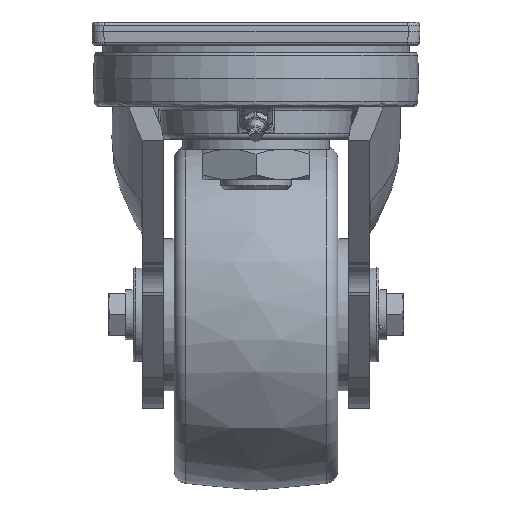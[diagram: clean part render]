
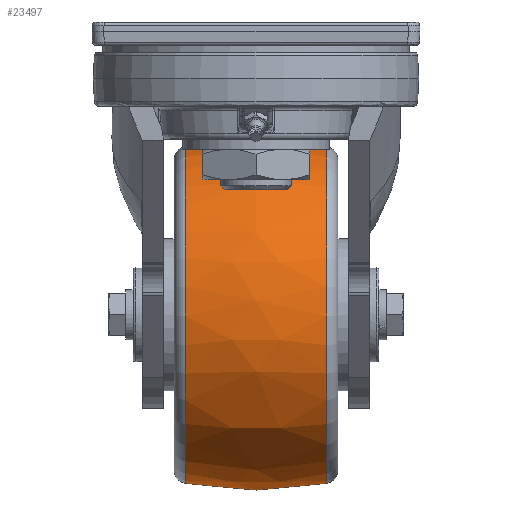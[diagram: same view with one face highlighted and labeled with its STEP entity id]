
A CAD part, left-side view. The second image highlights one B-rep face of the part: STEP entity #23497.
In plain terms, the highlighted free-form (B-spline) face has degree [2, 2] with [3, 9] control points.
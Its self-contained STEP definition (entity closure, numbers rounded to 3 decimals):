
#16=(
BOUNDED_SURFACE()
B_SPLINE_SURFACE(2,2,((#36085,#36086,#36087,#36088,#36089,#36090,#36091,
#36092,#36093),(#36094,#36095,#36096,#36097,#36098,#36099,#36100,#36101,
#36102),(#36103,#36104,#36105,#36106,#36107,#36108,#36109,#36110,#36111)),
 .UNSPECIFIED.,.F.,.T.,.F.)
B_SPLINE_SURFACE_WITH_KNOTS((3,3),(3,2,2,2,3),(-0.203,0.203),
(-3.142,-1.571,0.,1.571,3.142),
 .UNSPECIFIED.)
GEOMETRIC_REPRESENTATION_ITEM()
RATIONAL_B_SPLINE_SURFACE(((1.,0.707,1.,0.707,1.,
0.707,1.,0.707,1.),(0.98,0.693,
0.98,0.693,0.98,0.693,
0.98,0.693,0.98),(1.,0.707,
1.,0.707,1.,0.707,1.,0.707,1.)))
REPRESENTATION_ITEM('')
SURFACE()
);
#6738=FACE_OUTER_BOUND('',#8101,.T.);
#8101=EDGE_LOOP('',(#18519,#18520,#18521,#18522,#18523,#18524));
#9087=CIRCLE('',#24853,71.927);
#9088=CIRCLE('',#24854,71.927);
#9090=CIRCLE('',#24856,150.);
#9091=CIRCLE('',#24857,71.927);
#9092=CIRCLE('',#24858,71.927);
#10358=VERTEX_POINT('',#36079);
#10359=VERTEX_POINT('',#36081);
#10360=VERTEX_POINT('',#36112);
#10361=VERTEX_POINT('',#36114);
#13284=EDGE_CURVE('',#10358,#10359,#9087,.T.);
#13285=EDGE_CURVE('',#10359,#10358,#9088,.T.);
#13287=EDGE_CURVE('',#10358,#10360,#9090,.T.);
#13288=EDGE_CURVE('',#10361,#10360,#9091,.T.);
#13289=EDGE_CURVE('',#10360,#10361,#9092,.T.);
#18519=ORIENTED_EDGE('',*,*,#13285,.F.);
#18520=ORIENTED_EDGE('',*,*,#13284,.F.);
#18521=ORIENTED_EDGE('',*,*,#13287,.T.);
#18522=ORIENTED_EDGE('',*,*,#13288,.F.);
#18523=ORIENTED_EDGE('',*,*,#13289,.F.);
#18524=ORIENTED_EDGE('',*,*,#13287,.F.);
#23497=ADVANCED_FACE('',(#6738),#16,.F.);
#24853=AXIS2_PLACEMENT_3D('',#36082,#27696,#27697);
#24854=AXIS2_PLACEMENT_3D('',#36083,#27698,#27699);
#24856=AXIS2_PLACEMENT_3D('',#36113,#27702,#27703);
#24857=AXIS2_PLACEMENT_3D('',#36115,#27704,#27705);
#24858=AXIS2_PLACEMENT_3D('',#36116,#27706,#27707);
#27696=DIRECTION('center_axis',(0.,-1.,0.));
#27697=DIRECTION('ref_axis',(-0.762,0.,-0.648));
#27698=DIRECTION('center_axis',(0.,-1.,0.));
#27699=DIRECTION('ref_axis',(-0.762,0.,-0.648));
#27702=DIRECTION('center_axis',(0.648,0.,-0.762));
#27703=DIRECTION('ref_axis',(-0.762,0.,-0.648));
#27704=DIRECTION('center_axis',(0.,1.,0.));
#27705=DIRECTION('ref_axis',(-0.762,0.,-0.648));
#27706=DIRECTION('center_axis',(0.,1.,0.));
#27707=DIRECTION('ref_axis',(-0.762,0.,-0.648));
#36079=CARTESIAN_POINT('',(25.221,-30.208,-158.613));
#36081=CARTESIAN_POINT('',(134.779,-30.208,-65.388));
#36082=CARTESIAN_POINT('Origin',(80.,-30.208,-112.));
#36083=CARTESIAN_POINT('Origin',(80.,-30.208,-112.));
#36085=CARTESIAN_POINT('Ctrl Pts',(25.221,30.208,-158.613));
#36086=CARTESIAN_POINT('Ctrl Pts',(71.833,30.208,-213.392));
#36087=CARTESIAN_POINT('Ctrl Pts',(126.612,30.208,-166.779));
#36088=CARTESIAN_POINT('Ctrl Pts',(181.391,30.208,-120.167));
#36089=CARTESIAN_POINT('Ctrl Pts',(134.779,30.208,-65.388));
#36090=CARTESIAN_POINT('Ctrl Pts',(88.167,30.208,-10.609));
#36091=CARTESIAN_POINT('Ctrl Pts',(33.388,30.208,-57.221));
#36092=CARTESIAN_POINT('Ctrl Pts',(-21.391,30.208,-103.834));
#36093=CARTESIAN_POINT('Ctrl Pts',(25.221,30.208,-158.613));
#36094=CARTESIAN_POINT('Ctrl Pts',(20.491,0.,
-162.638));
#36095=CARTESIAN_POINT('Ctrl Pts',(71.128,0.,
-222.147));
#36096=CARTESIAN_POINT('Ctrl Pts',(130.637,0.,
-171.509));
#36097=CARTESIAN_POINT('Ctrl Pts',(190.147,0.,
-120.872));
#36098=CARTESIAN_POINT('Ctrl Pts',(139.509,0.,
-61.363));
#36099=CARTESIAN_POINT('Ctrl Pts',(88.872,0.,
-1.854));
#36100=CARTESIAN_POINT('Ctrl Pts',(29.363,0.,
-52.491));
#36101=CARTESIAN_POINT('Ctrl Pts',(-30.147,0.,
-103.128));
#36102=CARTESIAN_POINT('Ctrl Pts',(20.491,0.,
-162.638));
#36103=CARTESIAN_POINT('Ctrl Pts',(25.221,-30.208,-158.613));
#36104=CARTESIAN_POINT('Ctrl Pts',(71.833,-30.208,-213.392));
#36105=CARTESIAN_POINT('Ctrl Pts',(126.612,-30.208,-166.779));
#36106=CARTESIAN_POINT('Ctrl Pts',(181.391,-30.208,-120.167));
#36107=CARTESIAN_POINT('Ctrl Pts',(134.779,-30.208,-65.388));
#36108=CARTESIAN_POINT('Ctrl Pts',(88.167,-30.208,-10.609));
#36109=CARTESIAN_POINT('Ctrl Pts',(33.388,-30.208,-57.221));
#36110=CARTESIAN_POINT('Ctrl Pts',(-21.391,-30.208,
-103.834));
#36111=CARTESIAN_POINT('Ctrl Pts',(25.221,-30.208,-158.613));
#36112=CARTESIAN_POINT('',(25.221,30.208,-158.613));
#36113=CARTESIAN_POINT('Origin',(137.12,0.,-63.396));
#36114=CARTESIAN_POINT('',(134.779,30.208,-65.388));
#36115=CARTESIAN_POINT('Origin',(80.,30.208,-112.));
#36116=CARTESIAN_POINT('Origin',(80.,30.208,-112.));
